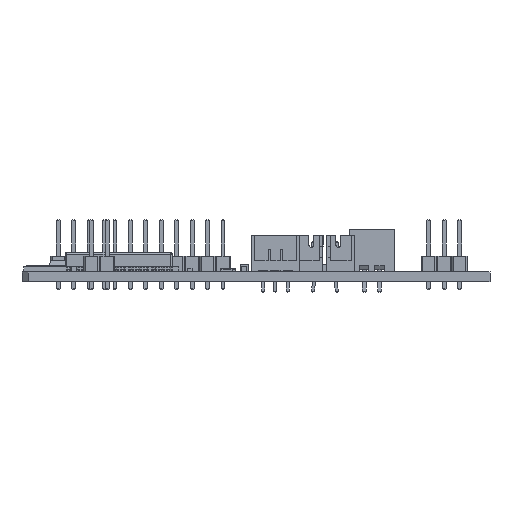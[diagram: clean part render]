
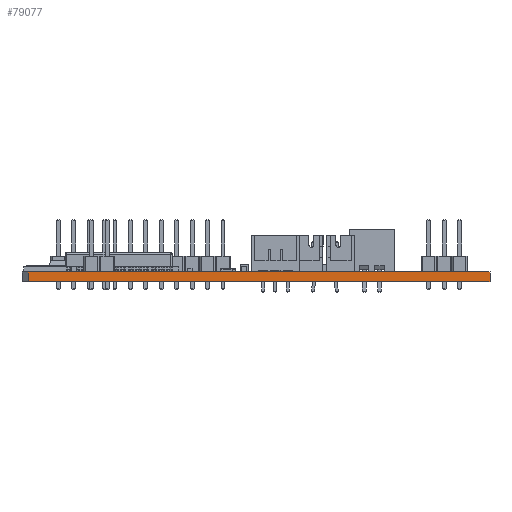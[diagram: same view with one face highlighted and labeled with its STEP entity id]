
A CAD part, left-side view. The second image highlights one B-rep face of the part: STEP entity #79077.
In plain terms, the highlighted planar face has unit normal (-1, 0, 0).
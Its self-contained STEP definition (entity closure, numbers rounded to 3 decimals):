
#77692 = VERTEX_POINT('',#77693);
#77693 = CARTESIAN_POINT('',(46.,-45.,0.));
#77699 = EDGE_CURVE('',#77700,#77692,#77702,.T.);
#77700 = VERTEX_POINT('',#77701);
#77701 = CARTESIAN_POINT('',(46.,-121.,0.));
#77702 = LINE('',#77703,#77704);
#77703 = CARTESIAN_POINT('',(46.,-121.,0.));
#77704 = VECTOR('',#77705,1.);
#77705 = DIRECTION('',(0.,1.,0.));
#78319 = VERTEX_POINT('',#78320);
#78320 = CARTESIAN_POINT('',(46.,-45.,1.6));
#78326 = EDGE_CURVE('',#78327,#78319,#78329,.T.);
#78327 = VERTEX_POINT('',#78328);
#78328 = CARTESIAN_POINT('',(46.,-121.,1.6));
#78329 = LINE('',#78330,#78331);
#78330 = CARTESIAN_POINT('',(46.,-121.,1.6));
#78331 = VECTOR('',#78332,1.);
#78332 = DIRECTION('',(0.,1.,0.));
#79047 = EDGE_CURVE('',#77692,#78319,#79048,.T.);
#79048 = LINE('',#79049,#79050);
#79049 = CARTESIAN_POINT('',(46.,-45.,0.));
#79050 = VECTOR('',#79051,1.);
#79051 = DIRECTION('',(0.,0.,1.));
#79077 = ADVANCED_FACE('',(#79078),#79089,.T.);
#79078 = FACE_BOUND('',#79079,.T.);
#79079 = EDGE_LOOP('',(#79080,#79086,#79087,#79088));
#79080 = ORIENTED_EDGE('',*,*,#79081,.T.);
#79081 = EDGE_CURVE('',#77700,#78327,#79082,.T.);
#79082 = LINE('',#79083,#79084);
#79083 = CARTESIAN_POINT('',(46.,-121.,0.));
#79084 = VECTOR('',#79085,1.);
#79085 = DIRECTION('',(0.,0.,1.));
#79086 = ORIENTED_EDGE('',*,*,#78326,.T.);
#79087 = ORIENTED_EDGE('',*,*,#79047,.F.);
#79088 = ORIENTED_EDGE('',*,*,#77699,.F.);
#79089 = PLANE('',#79090);
#79090 = AXIS2_PLACEMENT_3D('',#79091,#79092,#79093);
#79091 = CARTESIAN_POINT('',(46.,-121.,0.));
#79092 = DIRECTION('',(-1.,0.,0.));
#79093 = DIRECTION('',(0.,1.,0.));
